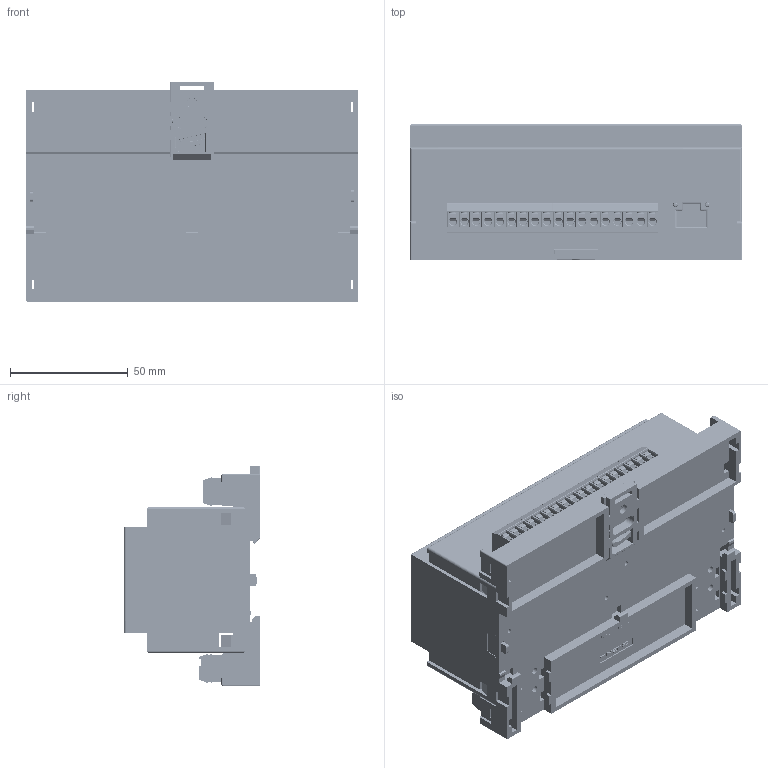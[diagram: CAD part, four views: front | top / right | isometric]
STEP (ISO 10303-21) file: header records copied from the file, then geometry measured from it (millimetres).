
FILE_DESCRIPTION (( 'STEP AP214' ), '1' );
FILE_NAME ('12390-1901-00_3D.STEP', '2014-04-04T06:47:21', ( '' ), ( '' ), 'SwSTEP 2.0', 'SolidWorks 2014', '' );
FILE_SCHEMA (( 'AUTOMOTIVE_DESIGN' ));
Length unit declared in the file: millimetre
Products named in the file (19): 31007103; 31137103; 12390-1200-01_3D; 1080 1990.5_V-Riegel_3D; V8_Frontplatte; Oberteil mit RJ45; V8_Leiterplatte; 1080 1910.4_3D_V8_UT; 12390-1901-00_3D
Assembly tree (20 placements, depth 2):
  12390-1901-00_3D
    1080 1910.4_3D_V8_UT
    V8_Leiterplatte
    Oberteil mit RJ45
    V8_Frontplatte
    1080 1990.5_V-Riegel_3D
    12390-1200-01_3D
    31137103  x2
    31007103
    31007103
    31007103
    31007103
    31007103
    31007103  x2
    31007103
    31007103
    31007103
    31007103
    31007103
Bounding box: 141.2 x 58 x 93.84 mm (x, y, z)
Volume: 128422 mm3; surface area: 158224.3 mm2
Topology: 818 solids, 818 shells, 13363 faces, 34247 edges, 22567 vertices
Faces by surface type: plane 10255, bspline 1571, cylinder 1263, cone 216, torus 38, sphere 20
Full cylindrical faces by diameter (mm): 0.2 x48, 1.5 x10, 1.8 x4, 1.9 x36, 2 x48, 2.25 x6, 2.4 x6, 2.7 x6, 2.8 x37, 3 x54, 3.5 x4, 3.658 x1, 3.9 x6, 4 x1, 4.2 x1, 4.5 x4, 6 x2
Entity records: 434415 total; most frequent: CARTESIAN_POINT 128838, ORIENTED_EDGE 63638, DIRECTION 52856, EDGE_CURVE 31819, VECTOR 25068, LINE 25068, VERTEX_POINT 21184, AXIS2_PLACEMENT_3D 13894
